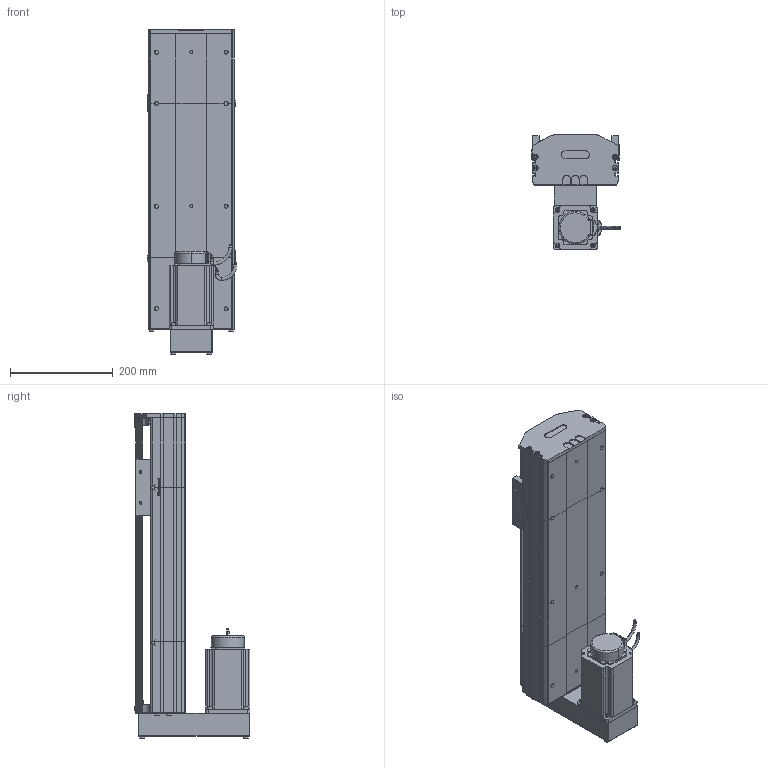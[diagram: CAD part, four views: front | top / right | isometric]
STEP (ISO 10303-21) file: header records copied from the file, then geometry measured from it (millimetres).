
FILE_DESCRIPTION (( 'STEP AP214' ), '1' );
FILE_NAME ('D17 TSN BM S300.STEP', '2010-06-30T07:28:09', ( 'Christophe Gaillard' ), ( 'SGA' ), 'SwSTEP 2.0', 'SolidWorks 2010', '' );
FILE_SCHEMA (( 'AUTOMOTIVE_DESIGN' ));
Length unit declared in the file: millimetre
Products named in the file (33): Moteur motionking 90BLDC125A-640; corps 90BLDC125A-640; avant 90BLDC125A-640; guide D17; vis M5 L12_Default; renvoi Bm_Default; Vis M5 L16-2_Default; Chariot D17 TBN; chariot D17 TSN; Cvis M5 L70_Default; Conecteur_Default; Conecteur2_Default; codeur 90BLDC125-640; course 300 D17_Default; D17 TSN BM S300; couvercle D17 course L300_Default; corp D17 300_Default; arbre + rail D17 Course 300 ; plaque de  bout tail D17_Default; corpl tail D17+L100_Default; Tail D17+L100_Default; Arbre+rail tail D17; tete d''axe haut D17; tete d''axe bas D17; vis M5 L25_Default; vis M5 L8 90°_Default; couvercle D17_Default; couvercle D17 head_Default; corpl head D17 BM_Default; head BM_Default; vis M5 L5_Default; Arbre+rail head D17; plaque de  bout BM head D17_Default
Assembly tree (51 placements, depth 4):
  D17 TSN BM S300
    Tail D17+L100_Default
      tete d''axe haut D17
      Arbre+rail tail D17
      plaque de  bout tail D17_Default
      vis M5 L25_Default  x2
      tete d''axe bas D17
      vis M5 L8 90°_Default  x2
      couvercle D17_Default
      vis M5 L12_Default  x4
      corpl tail D17+L100_Default
    chariot D17 TSN
      guide D17  x2
      Chariot D17 TBN
    course 300 D17_Default
      couvercle D17 course L300_Default
      corp D17 300_Default
      arbre + rail D17 Course 300 
    head BM_Default
      corpl head D17 BM_Default
      Vis M5 L16-2_Default  x4
      Moteur motionking 90BLDC125A-640
        Conecteur_Default
        avant 90BLDC125A-640
        corps 90BLDC125A-640
        Conecteur2_Default
        codeur 90BLDC125-640
      vis M5 L12_Default  x8
      renvoi Bm_Default
      Cvis M5 L70_Default  x2
      plaque de  bout BM head D17_Default
      vis M5 L5_Default  x2
      Arbre+rail head D17
      couvercle D17 head_Default
Bounding box: 174.95 x 225.7 x 632.7 mm (x, y, z)
Volume: 5002939 mm3; surface area: 1219133.6 mm2
Topology: 75 solids, 75 shells, 2105 faces, 5307 edges, 3432 vertices
Faces by surface type: plane 1326, cylinder 518, bspline 136, torus 65, cone 56, sphere 4
Entity records: 70336 total; most frequent: CARTESIAN_POINT 22332, ORIENTED_EDGE 8522, DIRECTION 7946, EDGE_CURVE 4261, VECTOR 3002, LINE 3002, VERTEX_POINT 2798, AXIS2_PLACEMENT_3D 2472
